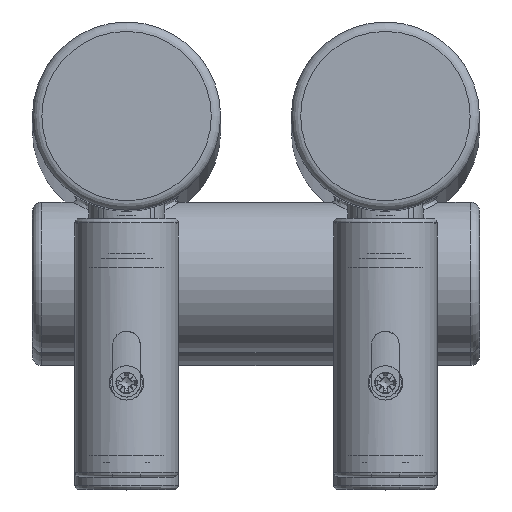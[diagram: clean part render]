
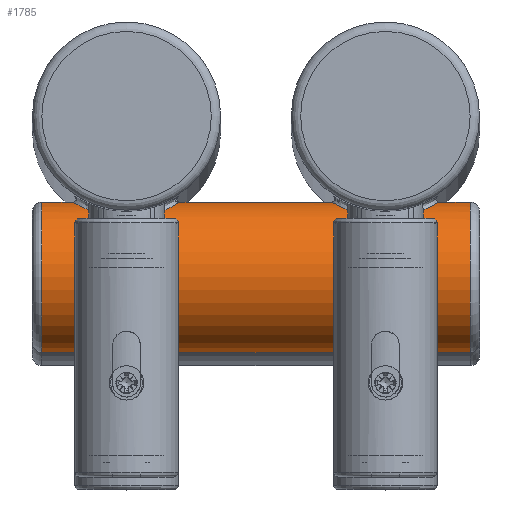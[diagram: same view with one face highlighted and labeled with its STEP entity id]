
A CAD part, top view. The second image highlights one B-rep face of the part: STEP entity #1785.
In plain terms, the highlighted cylindrical face has radius 16 mm (diameter 32 mm), a full revolution.
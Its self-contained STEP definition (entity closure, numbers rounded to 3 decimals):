
#156=FACE_BOUND('',#472,.T.);
#157=FACE_BOUND('',#473,.T.);
#175=LINE('',#3563,#246);
#246=VECTOR('',#2233,16.);
#317=CYLINDRICAL_SURFACE('',#1954,16.);
#348=FACE_OUTER_BOUND('',#471,.T.);
#471=EDGE_LOOP('',(#1265,#1266,#1267,#1268));
#472=EDGE_LOOP('',(#1269));
#473=EDGE_LOOP('',(#1270));
#604=B_SPLINE_CURVE_WITH_KNOTS('',3,(#3541,#3542,#3543,#3544,#3545,#3546,
#3547,#3548,#3549,#3550,#3551,#3552,#3553,#3554,#3555,#3556,#3557,#3558),
 .UNSPECIFIED.,.T.,.F.,(4,1,1,1,1,1,1,1,1,1,1,1,1,1,1,4),(0.,0.367,
0.733,1.1,1.466,1.955,2.199,
2.444,2.933,3.177,3.421,3.666,
3.91,4.399,4.765,5.132),
 .UNSPECIFIED.);
#605=B_SPLINE_CURVE_WITH_KNOTS('',3,(#3566,#3567,#3568,#3569,#3570,#3571,
#3572,#3573,#3574,#3575,#3576,#3577,#3578,#3579,#3580,#3581,#3582,#3583,
#3584,#3585,#3586,#3587,#3588,#3589,#3590),.UNSPECIFIED.,.T.,.F.,(4,1,1,
1,1,1,1,1,1,1,1,1,1,1,1,1,1,1,1,1,1,1,4),(0.,0.367,0.733,
1.1,1.283,1.466,1.711,1.955,
2.077,2.199,2.444,2.933,3.177,
3.421,3.666,3.788,3.91,4.154,
4.277,4.399,4.582,4.765,5.132),
 .UNSPECIFIED.);
#650=CIRCLE('',#1955,16.);
#651=CIRCLE('',#1956,16.);
#788=VERTEX_POINT('',#3539);
#789=VERTEX_POINT('',#3560);
#790=VERTEX_POINT('',#3562);
#791=VERTEX_POINT('',#3565);
#980=EDGE_CURVE('',#788,#788,#604,.T.);
#981=EDGE_CURVE('',#789,#789,#650,.T.);
#982=EDGE_CURVE('',#789,#790,#175,.T.);
#983=EDGE_CURVE('',#790,#790,#651,.T.);
#984=EDGE_CURVE('',#791,#791,#605,.T.);
#1265=ORIENTED_EDGE('',*,*,#981,.F.);
#1266=ORIENTED_EDGE('',*,*,#982,.T.);
#1267=ORIENTED_EDGE('',*,*,#983,.F.);
#1268=ORIENTED_EDGE('',*,*,#982,.F.);
#1269=ORIENTED_EDGE('',*,*,#984,.F.);
#1270=ORIENTED_EDGE('',*,*,#980,.F.);
#1785=ADVANCED_FACE('',(#348,#156,#157),#317,.T.);
#1954=AXIS2_PLACEMENT_3D('',#3559,#2229,#2230);
#1955=AXIS2_PLACEMENT_3D('',#3561,#2231,#2232);
#1956=AXIS2_PLACEMENT_3D('',#3564,#2234,#2235);
#2229=DIRECTION('center_axis',(-1.,0.,0.));
#2230=DIRECTION('ref_axis',(0.,0.,1.));
#2231=DIRECTION('center_axis',(-1.,0.,0.));
#2232=DIRECTION('ref_axis',(0.,0.,1.));
#2233=DIRECTION('',(1.,0.,0.));
#2234=DIRECTION('center_axis',(1.,0.,0.));
#2235=DIRECTION('ref_axis',(0.,0.,1.));
#3539=CARTESIAN_POINT('',(-55.,-21.257,1654.676));
#3541=CARTESIAN_POINT('Ctrl Pts',(-55.,-21.257,1654.676));
#3542=CARTESIAN_POINT('Ctrl Pts',(-53.333,-21.257,1654.676));
#3543=CARTESIAN_POINT('Ctrl Pts',(-49.998,-20.862,1654.186));
#3544=CARTESIAN_POINT('Ctrl Pts',(-45.822,-19.32,1651.732));
#3545=CARTESIAN_POINT('Ctrl Pts',(-43.543,-17.947,1647.499));
#3546=CARTESIAN_POINT('Ctrl Pts',(-43.525,-17.943,1641.936));
#3547=CARTESIAN_POINT('Ctrl Pts',(-46.229,-19.554,1637.874));
#3548=CARTESIAN_POINT('Ctrl Pts',(-50.077,-20.767,1635.98));
#3549=CARTESIAN_POINT('Ctrl Pts',(-54.395,-21.458,1635.071));
#3550=CARTESIAN_POINT('Ctrl Pts',(-58.972,-21.079,1635.505));
#3551=CARTESIAN_POINT('Ctrl Pts',(-62.798,-19.859,1637.413));
#3552=CARTESIAN_POINT('Ctrl Pts',(-64.989,-18.831,1639.665));
#3553=CARTESIAN_POINT('Ctrl Pts',(-66.247,-18.084,1642.577));
#3554=CARTESIAN_POINT('Ctrl Pts',(-66.602,-17.836,1646.907));
#3555=CARTESIAN_POINT('Ctrl Pts',(-64.645,-19.134,1651.468));
#3556=CARTESIAN_POINT('Ctrl Pts',(-59.999,-20.872,1654.179));
#3557=CARTESIAN_POINT('Ctrl Pts',(-56.667,-21.257,1654.676));
#3558=CARTESIAN_POINT('Ctrl Pts',(-55.,-21.257,1654.676));
#3559=CARTESIAN_POINT('Origin',(20.,-34.,1645.));
#3560=CARTESIAN_POINT('',(-73.,-34.,1629.));
#3561=CARTESIAN_POINT('Origin',(-73.,-34.,1645.));
#3562=CARTESIAN_POINT('',(18.,-34.,1629.));
#3563=CARTESIAN_POINT('',(20.,-34.,1629.));
#3564=CARTESIAN_POINT('Origin',(18.,-34.,1645.));
#3565=CARTESIAN_POINT('',(0.,-21.257,1654.676));
#3566=CARTESIAN_POINT('Ctrl Pts',(0.,-21.257,
1654.676));
#3567=CARTESIAN_POINT('Ctrl Pts',(1.667,-21.257,1654.676));
#3568=CARTESIAN_POINT('Ctrl Pts',(5.005,-20.862,1654.184));
#3569=CARTESIAN_POINT('Ctrl Pts',(9.172,-19.323,1651.732));
#3570=CARTESIAN_POINT('Ctrl Pts',(11.085,-18.177,1648.197));
#3571=CARTESIAN_POINT('Ctrl Pts',(11.461,-17.94,1644.999));
#3572=CARTESIAN_POINT('Ctrl Pts',(11.146,-18.139,1642.337));
#3573=CARTESIAN_POINT('Ctrl Pts',(9.987,-18.832,1639.662));
#3574=CARTESIAN_POINT('Ctrl Pts',(8.163,-19.688,1637.79));
#3575=CARTESIAN_POINT('Ctrl Pts',(6.363,-20.315,1636.696));
#3576=CARTESIAN_POINT('Ctrl Pts',(4.387,-20.85,1635.862));
#3577=CARTESIAN_POINT('Ctrl Pts',(0.602,-21.46,1635.076));
#3578=CARTESIAN_POINT('Ctrl Pts',(-3.97,-21.079,1635.503));
#3579=CARTESIAN_POINT('Ctrl Pts',(-7.798,-19.86,1637.413));
#3580=CARTESIAN_POINT('Ctrl Pts',(-9.986,-18.833,1639.664));
#3581=CARTESIAN_POINT('Ctrl Pts',(-11.04,-18.204,1642.095));
#3582=CARTESIAN_POINT('Ctrl Pts',(-11.377,-17.994,1644.199));
#3583=CARTESIAN_POINT('Ctrl Pts',(-11.377,-17.992,1646.337));
#3584=CARTESIAN_POINT('Ctrl Pts',(-10.869,-18.315,1648.422));
#3585=CARTESIAN_POINT('Ctrl Pts',(-9.87,-18.866,1650.253));
#3586=CARTESIAN_POINT('Ctrl Pts',(-8.73,-19.426,1651.665));
#3587=CARTESIAN_POINT('Ctrl Pts',(-7.088,-20.096,1652.962));
#3588=CARTESIAN_POINT('Ctrl Pts',(-4.172,-20.954,1654.303));
#3589=CARTESIAN_POINT('Ctrl Pts',(-1.667,-21.257,1654.676));
#3590=CARTESIAN_POINT('Ctrl Pts',(0.,-21.257,
1654.676));
